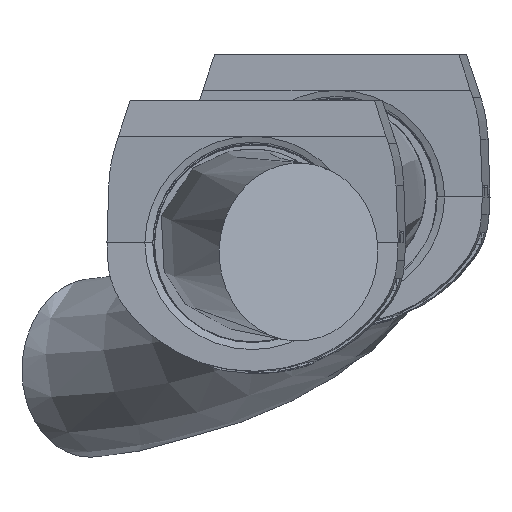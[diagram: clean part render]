
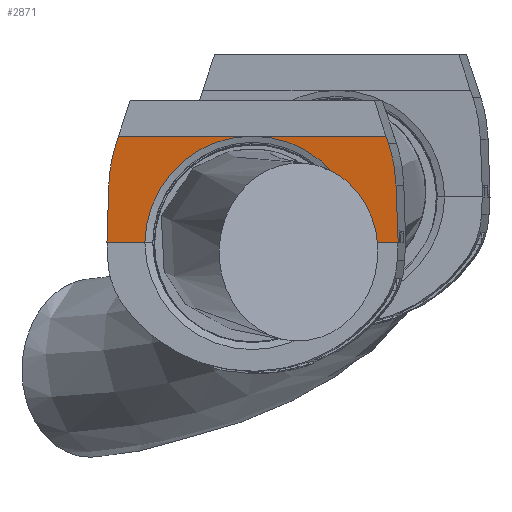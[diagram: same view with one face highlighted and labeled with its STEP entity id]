
A CAD part, top view. The second image highlights one B-rep face of the part: STEP entity #2871.
In plain terms, the highlighted planar face has unit normal (-0.091, -0.035, 0.995).
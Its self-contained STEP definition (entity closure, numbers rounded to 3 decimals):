
#139 = VECTOR ( 'NONE', #11842, 1000. ) ;
#184 = ORIENTED_EDGE ( 'NONE', *, *, #5231, .T. ) ;
#209 = EDGE_CURVE ( 'NONE', #5887, #7212, #4157, .T. ) ;
#263 = CARTESIAN_POINT ( 'NONE',  ( 806.66, -510.091, 1537.879 ) ) ;
#366 = EDGE_CURVE ( 'NONE', #5620, #5115, #11720, .T. ) ;
#575 = DIRECTION ( 'NONE',  ( 0.091, 0.035, -0.995 ) ) ;
#736 = ORIENTED_EDGE ( 'NONE', *, *, #209, .F. ) ;
#832 = DIRECTION ( 'NONE',  ( -0.316, 0.949, 0.004 ) ) ;
#838 = VERTEX_POINT ( 'NONE', #8208 ) ;
#1249 = VERTEX_POINT ( 'NONE', #2862 ) ;
#1725 = VECTOR ( 'NONE', #5731, 1000. ) ;
#1728 = VECTOR ( 'NONE', #832, 1000. ) ;
#1739 = CARTESIAN_POINT ( 'NONE',  ( 633.27, -457.5, 1523.791 ) ) ;
#1749 = EDGE_CURVE ( 'NONE', #5673, #2998, #3342, .T. ) ;
#1778 = CARTESIAN_POINT ( 'NONE',  ( 805.603, -482.256, 1538.758 ) ) ;
#2065 =( BOUNDED_CURVE ( )  B_SPLINE_CURVE ( 3, ( #11691, #4038, #6029, #5970 ),
 .UNSPECIFIED., .F., .T. ) 
 B_SPLINE_CURVE_WITH_KNOTS ( ( 4, 4 ),
 ( 1.251, 1.536 ),
 .UNSPECIFIED. ) 
 CURVE ( )  GEOMETRIC_REPRESENTATION_ITEM ( )  RATIONAL_B_SPLINE_CURVE ( ( 1., 0.993, 0.993, 1. ) ) 
 REPRESENTATION_ITEM ( '' )  );
#2452 = CARTESIAN_POINT ( 'NONE',  ( 660.257, -482.256, 1525.403 ) ) ;
#2549 = DIRECTION ( 'NONE',  ( -0.996, 0., -0.092 ) ) ;
#2569 = CARTESIAN_POINT ( 'NONE',  ( 801.791, -461.284, 1539.143 ) ) ;
#2710 = VECTOR ( 'NONE', #10795, 1000. ) ;
#2753 = CARTESIAN_POINT ( 'NONE',  ( 805.331, -475.11, 1538.984 ) ) ;
#2823 = AXIS2_PLACEMENT_3D ( 'NONE', #6308, #575, #8233 ) ;
#2862 = CARTESIAN_POINT ( 'NONE',  ( 787.541, -511.5, 1536.073 ) ) ;
#2871 = ADVANCED_FACE ( 'NONE', ( #10040 ), #6267, .F. ) ;
#2879 = CARTESIAN_POINT ( 'NONE',  ( 801.791, -461.284, 1539.143 ) ) ;
#2998 = VERTEX_POINT ( 'NONE', #12035 ) ;
#3203 = EDGE_LOOP ( 'NONE', ( #10627, #8801, #11044, #8107, #10944, #736, #8440, #184, #5066, #9278 ) ) ;
#3342 = LINE ( 'NONE', #1739, #4360 ) ;
#3711 = CARTESIAN_POINT ( 'NONE',  ( 659.334, -511.5, 1524.292 ) ) ;
#4038 = CARTESIAN_POINT ( 'NONE',  ( 661.717, -468.071, 1526.034 ) ) ;
#4094 = CARTESIAN_POINT ( 'NONE',  ( 665.172, -457.5, 1526.722 ) ) ;
#4157 = LINE ( 'NONE', #5210, #12271 ) ;
#4360 = VECTOR ( 'NONE', #8263, 1000. ) ;
#4428 = LINE ( 'NONE', #11072, #11595 ) ;
#4482 = CARTESIAN_POINT ( 'NONE',  ( 801.452, -460.268, 1539.148 ) ) ;
#4855 = EDGE_CURVE ( 'NONE', #5417, #2998, #11137, .T. ) ;
#4908 = CARTESIAN_POINT ( 'NONE',  ( 805.603, -482.256, 1538.758 ) ) ;
#5066 = ORIENTED_EDGE ( 'NONE', *, *, #5152, .F. ) ;
#5115 = VERTEX_POINT ( 'NONE', #4908 ) ;
#5152 = EDGE_CURVE ( 'NONE', #5620, #1249, #9988, .T. ) ;
#5210 = CARTESIAN_POINT ( 'NONE',  ( 660.209, -483.794, 1525.344 ) ) ;
#5231 = EDGE_CURVE ( 'NONE', #7534, #1249, #10647, .T. ) ;
#5417 = VERTEX_POINT ( 'NONE', #2569 ) ;
#5596 = DIRECTION ( 'NONE',  ( 0.091, 0.035, -0.995 ) ) ;
#5620 = VERTEX_POINT ( 'NONE', #10805 ) ;
#5673 = VERTEX_POINT ( 'NONE', #4094 ) ;
#5731 = DIRECTION ( 'NONE',  ( -0.31, -0.949, -0.062 ) ) ;
#5887 = VERTEX_POINT ( 'NONE', #3711 ) ;
#5970 = CARTESIAN_POINT ( 'NONE',  ( 660.257, -482.256, 1525.403 ) ) ;
#6027 = CARTESIAN_POINT ( 'NONE',  ( 659.334, -511.5, 1524.292 ) ) ;
#6029 = CARTESIAN_POINT ( 'NONE',  ( 660.483, -475.11, 1525.674 ) ) ;
#6267 = PLANE ( 'NONE',  #2823 ) ;
#6271 = DIRECTION ( 'NONE',  ( 0.032, 0.999, 0.038 ) ) ;
#6308 = CARTESIAN_POINT ( 'NONE',  ( 633.458, -516.158, 1521.751 ) ) ;
#7212 = VERTEX_POINT ( 'NONE', #2452 ) ;
#7269 = DIRECTION ( 'NONE',  ( -0.003, 0.999, 0.035 ) ) ;
#7534 = VERTEX_POINT ( 'NONE', #8119 ) ;
#7729 = EDGE_CURVE ( 'NONE', #5115, #5417, #11375, .T. ) ;
#8107 = ORIENTED_EDGE ( 'NONE', *, *, #11628, .T. ) ;
#8119 = CARTESIAN_POINT ( 'NONE',  ( 678.506, -511.5, 1526.054 ) ) ;
#8208 = CARTESIAN_POINT ( 'NONE',  ( 663.935, -461.284, 1526.476 ) ) ;
#8233 = DIRECTION ( 'NONE',  ( -0.003, 0.999, 0.035 ) ) ;
#8263 = DIRECTION ( 'NONE',  ( 0.996, 0., 0.092 ) ) ;
#8379 = CARTESIAN_POINT ( 'NONE',  ( 733.026, -512.219, 1531.038 ) ) ;
#8440 = ORIENTED_EDGE ( 'NONE', *, *, #10313, .F. ) ;
#8691 = CARTESIAN_POINT ( 'NONE',  ( 644.776, -519.916, 1522.66 ) ) ;
#8801 = ORIENTED_EDGE ( 'NONE', *, *, #4855, .T. ) ;
#9278 = ORIENTED_EDGE ( 'NONE', *, *, #366, .T. ) ;
#9988 = LINE ( 'NONE', #6027, #2710 ) ;
#10040 = FACE_OUTER_BOUND ( 'NONE', #3203, .T. ) ;
#10254 = AXIS2_PLACEMENT_3D ( 'NONE', #8379, #5596, #7269 ) ;
#10313 = EDGE_CURVE ( 'NONE', #7534, #5887, #4428, .T. ) ;
#10429 = LINE ( 'NONE', #8691, #1725 ) ;
#10627 = ORIENTED_EDGE ( 'NONE', *, *, #7729, .T. ) ;
#10647 = CIRCLE ( 'NONE', #10254, 54.752 ) ;
#10795 = DIRECTION ( 'NONE',  ( -0.996, 0., -0.092 ) ) ;
#10805 = CARTESIAN_POINT ( 'NONE',  ( 806.713, -511.5, 1537.835 ) ) ;
#10944 = ORIENTED_EDGE ( 'NONE', *, *, #11365, .T. ) ;
#11044 = ORIENTED_EDGE ( 'NONE', *, *, #1749, .F. ) ;
#11072 = CARTESIAN_POINT ( 'NONE',  ( 659.334, -511.5, 1524.292 ) ) ;
#11137 = LINE ( 'NONE', #4482, #1728 ) ;
#11272 = CARTESIAN_POINT ( 'NONE',  ( 804.052, -468.071, 1539.113 ) ) ;
#11365 = EDGE_CURVE ( 'NONE', #838, #7212, #2065, .T. ) ;
#11375 =( BOUNDED_CURVE ( )  B_SPLINE_CURVE ( 3, ( #1778, #2753, #11272, #2879 ),
 .UNSPECIFIED., .F., .F. ) 
 B_SPLINE_CURVE_WITH_KNOTS ( ( 4, 4 ),
 ( 4.747, 5.032 ),
 .UNSPECIFIED. ) 
 CURVE ( )  GEOMETRIC_REPRESENTATION_ITEM ( )  RATIONAL_B_SPLINE_CURVE ( ( 1., 0.993, 0.993, 1. ) ) 
 REPRESENTATION_ITEM ( '' )  );
#11595 = VECTOR ( 'NONE', #2549, 1000. ) ;
#11628 = EDGE_CURVE ( 'NONE', #5673, #838, #10429, .T. ) ;
#11691 = CARTESIAN_POINT ( 'NONE',  ( 663.935, -461.284, 1526.476 ) ) ;
#11720 = LINE ( 'NONE', #263, #139 ) ;
#11842 = DIRECTION ( 'NONE',  ( -0.038, 0.999, 0.032 ) ) ;
#12035 = CARTESIAN_POINT ( 'NONE',  ( 800.53, -457.5, 1539.16 ) ) ;
#12271 = VECTOR ( 'NONE', #6271, 1000. ) ;
